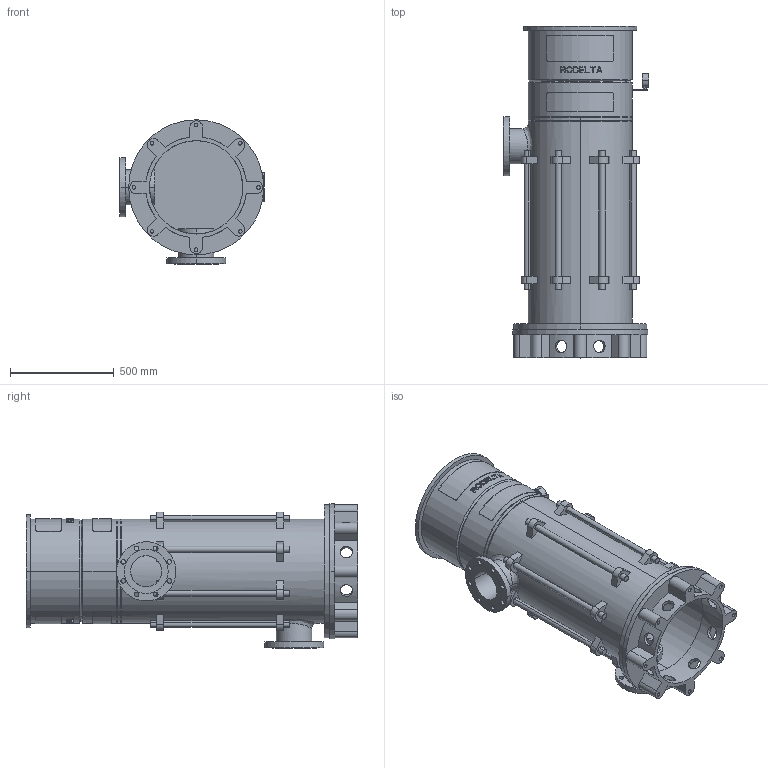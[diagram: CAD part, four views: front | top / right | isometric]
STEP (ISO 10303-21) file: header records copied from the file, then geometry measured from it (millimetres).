
FILE_DESCRIPTION((''),'2;1');
FILE_NAME('LS6_4TR_0GR_PN16_ABOVE_30KW','2025-10-23T13:55:41',('Lyritlocal'),(''),'CREO PARAMETRIC BY PTC INC, 2022014','CREO PARAMETRIC BY PTC INC, 2022014','');
FILE_SCHEMA(('CONFIG_CONTROL_DESIGN'));
Length unit declared in the file: millimetre
Products named in the file (1): LS6_4TR_0GR_PN16_ABOVE_30KW
Bounding box: 700 x 1597 x 695 mm (x, y, z)
Volume: 53239392.5 mm3; surface area: 7315313.9 mm2
Topology: 3 solids, 11 shells, 732 faces, 1891 edges, 1258 vertices
Faces by surface type: plane 438, cylinder 274, cone 12, bspline 8
Entity records: 24309 total; most frequent: CARTESIAN_POINT 6481, ORIENTED_EDGE 3750, DIRECTION 3537, EDGE_CURVE 1891, AXIS2_PLACEMENT_3D 1341, VERTEX_POINT 1258, EDGE_LOOP 893, VECTOR 855
